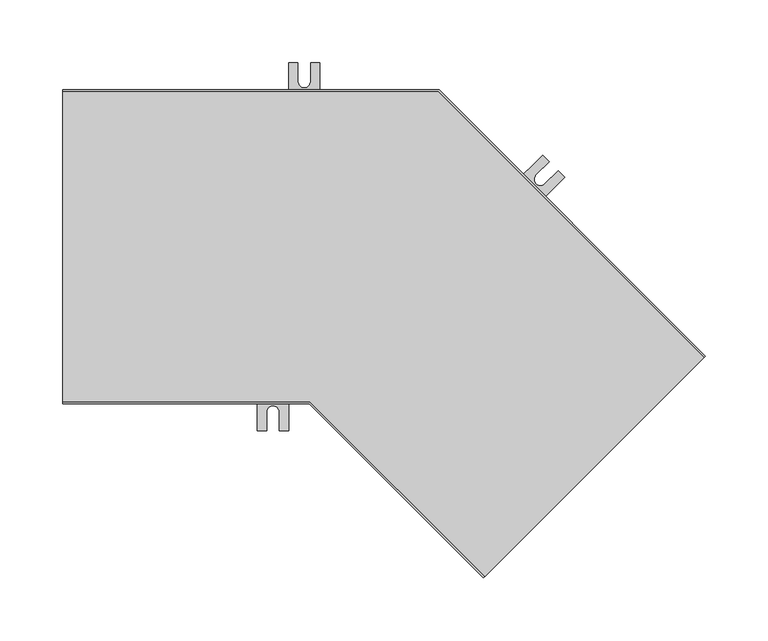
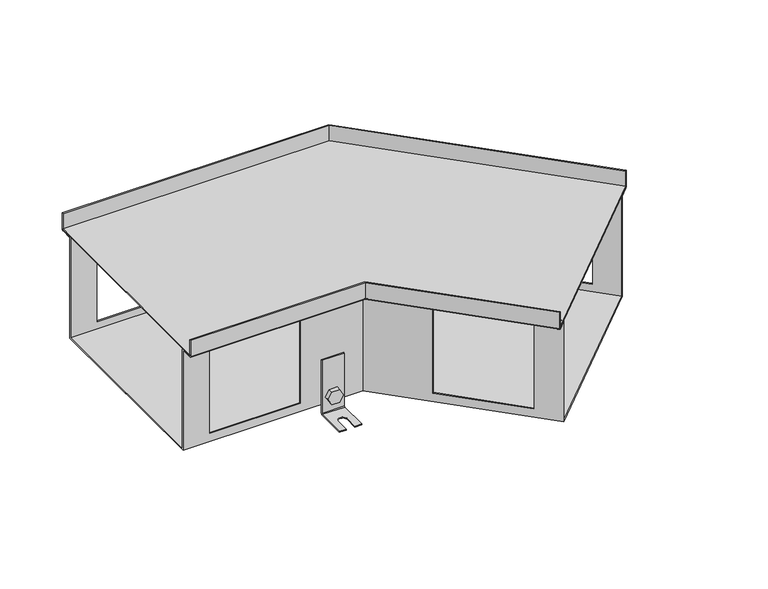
"""IFC4 building model written with IfcOpenShell, lengths in millimetres: proxy geometry, TECHNO_Угловой элемент_KVU : 250_140_135°."""

from ifc_helpers import new_model, si_unit, point, frame, frame_2d, origin, place, context, project, spatial, polyline, circle_curve, ellipse_curve, trimmed, segment, composite_curve, outline, extrude, source, transform, mapped, element, save
from ifc_brep_helpers import plane_surface, cylinder_surface, revolved_surface, advanced_brep


def mechanical_equipment_a61a3835(model_context):
    return source(origin(), model_context, "Body", "SolidModel", [
        extrude(outline(composite_curve([segment(trimmed(circle_curve(frame_2d((0.0, -7.5000001)), 7.5), [point((0.0, -15.0))], [point((0.0, 0.0))], False, "CARTESIAN"), True, "CONTINUOUS"), segment(trimmed(circle_curve(frame_2d((0.0, -7.5000001)), 7.5), [point((0.0, 0.0))], [point((0.0, -15.0))], False, "CARTESIAN"), True, "CONTINUOUS")], self_intersect=False)), frame((347.6589971, -25.3309017, -130.5), z_axis=(0.7071067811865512, 0.7071067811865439, 0.0), x_axis=(0.0, 0.0, 1.0)), (0.0, 0.0, 1.0), 1.5),
        extrude(outline(polyline([(0.0, 0.0), (8.6602541, 0.0), (12.9903811, -7.5), (8.660254, -15.0), (0.0, -15.0), (-4.330127, -7.5), (0.0, 0.0)])), frame((331.7771991, -18.3586492, -130.5), z_axis=(0.7071067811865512, 0.7071067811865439, 0.0), x_axis=(0.3535533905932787, -0.3535533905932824, -0.8660254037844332)), (0.0, 0.0, 1.0), 5.1),
        advanced_brep(
        [(350.3460028, -29.7149637, -85.5), (350.3460028, -29.7149637, -148.5), (349.7803174, -30.2806491, -149.3), (326.4457936, -53.6151729, -149.3), (326.4457936, -53.6151729, -150.5), (349.7803174, -30.2806491, -150.5), (351.194531, -28.8664356, -148.5), (351.194531, -28.8664356, -85.5), (332.6683333, -12.0372942, -85.5), (333.5168614, -11.1887661, -85.5), (333.5168614, -11.1887661, -148.5), (332.1026479, -12.6029796, -150.5), (308.7681241, -35.9375034, -150.5), (308.7681241, -35.9375034, -149.3), (332.1026479, -12.6029796, -149.3), (332.6683333, -12.0372942, -148.5), (314.0714249, -41.2408043, -149.3), (324.6780267, -30.6342025, -149.3), (331.7490945, -37.7052704, -149.3), (321.1424928, -48.3118721, -149.3), (321.1424928, -48.3118721, -150.5), (314.0714249, -41.2408043, -150.5), (331.7490945, -37.7052704, -150.5), (324.6780267, -30.6342025, -150.5)],
        [
            (0, 1),
            (1, 2, circle_curve(frame((349.7803174, -30.2806491, -148.5), z_axis=(-0.7071067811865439, 0.7071067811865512, 0.0), x_axis=(-0.7071067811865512, -0.7071067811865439, 0.0)), 0.8)),
            (2, 3),
            (3, 4),
            (4, 5),
            (5, 6, circle_curve(frame((349.7803174, -30.2806491, -148.5), z_axis=(0.7071067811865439, -0.7071067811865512, 0.0), x_axis=(-0.7071067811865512, -0.7071067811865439, 0.0)), 2.0)),
            (6, 7),
            (7, 0),
            (8, 9),
            (9, 10),
            (10, 11, circle_curve(frame((332.1026479, -12.6029796, -148.5), z_axis=(-0.7071067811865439, 0.7071067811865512, 0.0), x_axis=(-0.7071067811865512, -0.7071067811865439, 0.0)), 2.0)),
            (11, 12),
            (12, 13),
            (13, 14),
            (14, 15, circle_curve(frame((332.1026479, -12.6029796, -148.5), z_axis=(0.7071067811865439, -0.7071067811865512, 0.0), x_axis=(-0.7071067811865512, -0.7071067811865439, 0.0)), 0.8)),
            (15, 8),
            (0, 8),
            (15, 1),
            (14, 2),
            (13, 16),
            (16, 17),
            (17, 18, circle_curve(frame((328.2135606, -34.1697364, -149.3), z_axis=(0.0, 0.0, -1.0), x_axis=(0.7071067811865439, -0.7071067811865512, 0.0)), 5.0)),
            (18, 19),
            (19, 3),
            (19, 20),
            (20, 4),
            (12, 21),
            (21, 16),
            (20, 22),
            (22, 23, circle_curve(frame((328.2135606, -34.1697364, -150.5), z_axis=(0.0, 0.0, 1.0), x_axis=(0.7071067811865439, -0.7071067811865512, 0.0)), 5.0)),
            (23, 21),
            (11, 5),
            (10, 6),
            (9, 7),
            (23, 17),
            (18, 22),
        ],
        [
            plane_surface(frame((350.3460028, -29.7149637, -85.5), z_axis=(0.7071067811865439, -0.7071067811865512, 0.0), x_axis=(0.0, 0.0, -1.0))),
            plane_surface(frame((332.6683333, -12.0372942, -85.5), z_axis=(-0.7071067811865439, 0.7071067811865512, 0.0), x_axis=(0.0, 0.0, 1.0))),
            plane_surface(frame((350.3460028, -29.7149637, -85.5), z_axis=(-0.7071067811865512, -0.7071067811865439, 0.0), x_axis=(-0.7071067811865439, 0.7071067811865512, 0.0))),
            revolved_surface(polyline([(331.53696247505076, -13.168665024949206, -148.5), (349.2146319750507, -30.84633452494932, -148.5)]), (332.1026479, -12.6029796, -148.5), (-0.7071067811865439, 0.7071067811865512, 0.0)),
            plane_surface(frame((349.7803174, -30.2806491, -149.3), z_axis=(0.0, 0.0, 1.0), x_axis=(-0.7071067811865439, 0.7071067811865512, 0.0))),
            plane_surface(frame((326.4457936, -53.6151729, -149.3), z_axis=(-0.7071067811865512, -0.7071067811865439, 0.0), x_axis=(-0.7071067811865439, 0.7071067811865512, 0.0))),
            plane_surface(frame((326.4457936, -53.6151729, -150.5), z_axis=(0.0, 0.0, -1.0), x_axis=(-0.7071067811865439, 0.7071067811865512, 0.0))),
            cylinder_surface(frame((332.1026479, -12.6029796, -148.5), z_axis=(0.7071067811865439, -0.7071067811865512, 0.0), x_axis=(-0.7071067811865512, -0.7071067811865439, 0.0)), 2.0),
            plane_surface(frame((351.194531, -28.8664356, -148.5), z_axis=(0.7071067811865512, 0.7071067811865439, 0.0), x_axis=(-0.7071067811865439, 0.7071067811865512, 0.0))),
            plane_surface(frame((351.194531, -28.8664356, -85.5), z_axis=(0.0, 0.0, 1.0), x_axis=(-0.7071067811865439, 0.7071067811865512, 0.0))),
            plane_surface(frame((324.6780267, -30.6342025, -149.3), z_axis=(0.7071067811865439, -0.7071067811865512, 0.0), x_axis=(0.0, 0.0, -1.0))),
            plane_surface(frame((321.1424928, -48.3118721, -149.3), z_axis=(-0.707106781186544, 0.7071067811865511, 0.0), x_axis=(0.0, 0.0, -1.0))),
            revolved_surface(polyline([(331.7490945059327, -37.70527030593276, -149.3), (331.7490945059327, -37.70527030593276, -150.5)]), (328.2135606, -34.1697364, -150.5), (0.0, 0.0, 1.0)),
        ],
        [
            (0, [[1, 2, 3, 4, 5, 6, 7, 8]]),
            (1, [[9, 10, 11, 12, 13, 14, 15, 16]]),
            (2, [[-1, 17, -16, 18]]),
            (3, [[-2, -18, -15, 19]]),
            (4, [[-3, -19, -14, 20, 21, 22, 23, 24]]),
            (5, [[-4, -24, 25, 26]]),
            (5, [[-13, 27, 28, -20]]),
            (6, [[-5, -26, 29, 30, 31, -27, -12, 32]]),
            (7, [[-6, -32, -11, 33]]),
            (8, [[-7, -33, -10, 34]]),
            (9, [[-8, -34, -9, -17]]),
            (10, [[35, -21, -28, -31]]),
            (11, [[36, -29, -25, -23]]),
            (12, [[-35, -30, -36, -22]]),
        ],
    ),
        extrude(outline(composite_curve([segment(trimmed(circle_curve(frame_2d((0.0, -7.4999999)), 7.5), [point((0.0, -15.0))], [point((0.0, 0.0))], False, "CARTESIAN"), True, "CONTINUOUS"), segment(trimmed(circle_curve(frame_2d((0.0, -7.4999999)), 7.5), [point((0.0, 0.0))], [point((0.0, -15.0))], False, "CARTESIAN"), True, "CONTINUOUS")], self_intersect=False)), frame((360.2454978, 43.8241415, -130.5), z_axis=(0.7071067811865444, 0.7071067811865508, 0.0), x_axis=(0.0, 0.0, -1.0)), (0.0, 0.0, 1.0), 1.5),
        extrude(outline(polyline([(0.0, 0.0), (4.330127, -7.5), (0.0, -15.0), (-8.660254, -15.0), (-12.9903811, -7.5), (-8.6602541, 0.0), (0.0, 0.0)])), frame((373.5817113, 34.3063046, -130.5), z_axis=(0.7071067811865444, 0.7071067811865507, 0.0), x_axis=(0.35355339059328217, -0.35355339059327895, 0.8660254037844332)), (0.0, 0.0, 1.0), 5.1),
        advanced_brep(
        [(358.6191522, 49.2688637, -85.5), (358.6191522, 49.2688637, -148.5), (359.1848376, 49.8345492, -149.3), (382.5193614, 73.1690729, -149.3), (382.5193614, 73.1690729, -150.5), (359.1848376, 49.8345492, -150.5), (357.770624, 48.4203356, -148.5), (357.770624, 48.4203356, -85.5), (376.2968217, 31.5911942, -85.5), (375.4482936, 30.7426661, -85.5), (375.4482936, 30.7426661, -148.5), (376.8625071, 32.1568796, -150.5), (400.1970309, 55.4914034, -150.5), (400.1970309, 55.4914034, -149.3), (376.8625071, 32.1568796, -149.3), (376.2968217, 31.5911942, -148.5), (394.89373, 60.7947043, -149.3), (384.2871283, 50.1881026, -149.3), (377.2160605, 57.2591704, -149.3), (387.8226622, 67.8657721, -149.3), (387.8226622, 67.8657721, -150.5), (394.89373, 60.7947043, -150.5), (377.2160605, 57.2591704, -150.5), (384.2871283, 50.1881026, -150.5)],
        [
            (0, 1),
            (1, 2, circle_curve(frame((359.1848376, 49.8345492, -148.5), z_axis=(0.7071067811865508, -0.7071067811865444, 0.0), x_axis=(0.7071067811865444, 0.7071067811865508, 0.0)), 0.8)),
            (2, 3),
            (3, 4),
            (4, 5),
            (5, 6, circle_curve(frame((359.1848376, 49.8345492, -148.5), z_axis=(-0.7071067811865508, 0.7071067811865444, 0.0), x_axis=(0.7071067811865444, 0.7071067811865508, 0.0)), 2.0)),
            (6, 7),
            (7, 0),
            (8, 9),
            (9, 10),
            (10, 11, circle_curve(frame((376.8625071, 32.1568796, -148.5), z_axis=(0.7071067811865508, -0.7071067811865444, 0.0), x_axis=(0.7071067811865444, 0.7071067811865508, 0.0)), 2.0)),
            (11, 12),
            (12, 13),
            (13, 14),
            (14, 15, circle_curve(frame((376.8625071, 32.1568796, -148.5), z_axis=(-0.7071067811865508, 0.7071067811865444, 0.0), x_axis=(0.7071067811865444, 0.7071067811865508, 0.0)), 0.8)),
            (15, 8),
            (0, 8),
            (15, 1),
            (14, 2),
            (13, 16),
            (16, 17),
            (17, 18, circle_curve(frame((380.7515944, 53.7236365, -149.3), z_axis=(0.0, 0.0, -1.0), x_axis=(-0.7071067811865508, 0.7071067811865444, 0.0)), 5.0)),
            (18, 19),
            (19, 3),
            (19, 20),
            (20, 4),
            (12, 21),
            (21, 16),
            (20, 22),
            (22, 23, circle_curve(frame((380.7515944, 53.7236365, -150.5), z_axis=(0.0, 0.0, 1.0), x_axis=(-0.7071067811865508, 0.7071067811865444, 0.0)), 5.0)),
            (23, 21),
            (11, 5),
            (10, 6),
            (9, 7),
            (23, 17),
            (18, 22),
        ],
        [
            plane_surface(frame((358.6191522, 49.2688637, -85.5), z_axis=(-0.7071067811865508, 0.7071067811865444, 0.0), x_axis=(0.0, 0.0, -1.0))),
            plane_surface(frame((376.2968217, 31.5911942, -85.5), z_axis=(0.7071067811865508, -0.7071067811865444, 0.0), x_axis=(0.0, 0.0, 1.0))),
            plane_surface(frame((358.6191522, 49.2688637, -85.5), z_axis=(0.7071067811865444, 0.7071067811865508, 0.0), x_axis=(0.7071067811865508, -0.7071067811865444, 0.0))),
            revolved_surface(polyline([(377.4281925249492, 32.72256502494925, -148.5), (359.75052297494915, 50.40023457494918, -148.5)]), (376.8625071, 32.1568796, -148.5), (0.7071067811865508, -0.7071067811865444, 0.0)),
            plane_surface(frame((359.1848376, 49.8345492, -149.3), z_axis=(0.0, 0.0, 1.0000000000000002), x_axis=(0.7071067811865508, -0.7071067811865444, 0.0))),
            plane_surface(frame((382.5193614, 73.1690729, -149.3), z_axis=(0.7071067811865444, 0.7071067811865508, 0.0), x_axis=(0.7071067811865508, -0.7071067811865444, 0.0))),
            plane_surface(frame((382.5193614, 73.1690729, -150.5), z_axis=(0.0, 0.0, -1.0000000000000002), x_axis=(0.7071067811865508, -0.7071067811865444, 0.0))),
            cylinder_surface(frame((376.8625071, 32.1568796, -148.5), z_axis=(-0.7071067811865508, 0.7071067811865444, 0.0), x_axis=(0.7071067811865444, 0.7071067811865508, 0.0)), 2.0),
            plane_surface(frame((357.770624, 48.4203356, -148.5), z_axis=(-0.7071067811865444, -0.7071067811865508, 0.0), x_axis=(0.7071067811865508, -0.7071067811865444, 0.0))),
            plane_surface(frame((357.770624, 48.4203356, -85.5), z_axis=(0.0, 0.0, 1.0000000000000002), x_axis=(0.7071067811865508, -0.7071067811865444, 0.0))),
            plane_surface(frame((384.2871283, 50.1881026, -149.3), z_axis=(-0.7071067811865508, 0.7071067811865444, 0.0), x_axis=(0.0, 0.0, -1.0))),
            plane_surface(frame((387.8226622, 67.8657721, -149.3), z_axis=(0.7071067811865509, -0.7071067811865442, 0.0), x_axis=(0.0, 0.0, -1.0))),
            revolved_surface(polyline([(377.2160604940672, 57.25917040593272, -149.3), (377.2160604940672, 57.25917040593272, -150.5)]), (380.7515944, 53.7236365, -150.5), (0.0, 0.0, 1.0)),
        ],
        [
            (0, [[1, 2, 3, 4, 5, 6, 7, 8]]),
            (1, [[9, 10, 11, 12, 13, 14, 15, 16]]),
            (2, [[-1, 17, -16, 18]]),
            (3, [[-2, -18, -15, 19]]),
            (4, [[-3, -19, -14, 20, 21, 22, 23, 24]]),
            (5, [[-4, -24, 25, 26]]),
            (5, [[-13, 27, 28, -20]]),
            (6, [[-5, -26, 29, 30, 31, -27, -12, 32]]),
            (7, [[-6, -32, -11, 33]]),
            (8, [[-7, -33, -10, 34]]),
            (9, [[-8, -34, -9, -17]]),
            (10, [[35, -21, -28, -31]]),
            (11, [[36, -29, -25, -23]]),
            (12, [[-35, -30, -36, -22]]),
        ],
    ),
        extrude(outline(composite_curve([segment(trimmed(circle_curve(frame_2d((-130.5, 192.5)), 7.5), [point((-130.5, 185.0))], [point((-130.5, 200.0))], False, "CARTESIAN"), True, "CONTINUOUS"), segment(trimmed(circle_curve(frame_2d((-130.5, 192.5)), 7.5), [point((-130.5, 200.0))], [point((-130.5, 185.0))], False, "CARTESIAN"), True, "CONTINUOUS")], self_intersect=False)), frame((0.0, 110.2, 0.0), z_axis=(0.0, 1.0, 0.0), x_axis=(0.0, 0.0, 1.0)), (0.0, 0.0, 1.0), 1.5),
        extrude(outline(polyline([(-130.5, 183.839746), (-138.0, 188.169873), (-138.0, 196.830127), (-130.5, 201.160254), (-123.0, 196.830127), (-123.0, 188.169873), (-130.5, 183.839746)])), frame((0.0, 112.9, 0.0), z_axis=(0.0, 1.0, 0.0), x_axis=(0.0, 0.0, 1.0)), (0.0, 0.0, 1.0), 5.1),
        advanced_brep(
        [(205.0, 112.9, -85.5), (205.0, 111.7, -85.5), (205.0, 111.7, -148.5), (205.0, 113.7, -150.5), (205.0, 146.7, -150.5), (205.0, 146.7, -149.3), (205.0, 113.7, -149.3), (205.0, 112.9, -148.5), (180.0, 112.9, -85.5), (180.0, 112.9, -148.5), (180.0, 113.7, -149.3), (180.0, 146.7, -149.3), (180.0, 146.7, -150.5), (180.0, 113.7, -150.5), (180.0, 111.7, -148.5), (180.0, 111.7, -85.5), (197.5, 146.7, -149.3), (197.5, 131.7, -149.3), (187.5, 131.7, -149.3), (187.5, 146.7, -149.3), (187.5, 146.7, -150.5), (197.5, 146.7, -150.5), (187.5, 131.7, -150.5), (197.5, 131.7, -150.5)],
        [
            (0, 1),
            (1, 2),
            (2, 3, circle_curve(frame((205.0, 113.7, -148.5), z_axis=(1.0, 0.0, 0.0), x_axis=(0.0, 1.0, 0.0)), 2.0)),
            (3, 4),
            (4, 5),
            (5, 6),
            (6, 7, circle_curve(frame((205.0, 113.7, -148.5), z_axis=(-1.0, 0.0, 0.0), x_axis=(0.0, 1.0, 0.0)), 0.8)),
            (7, 0),
            (8, 9),
            (9, 10, circle_curve(frame((180.0, 113.7, -148.5), z_axis=(1.0, 0.0, 0.0), x_axis=(0.0, 1.0, 0.0)), 0.8)),
            (10, 11),
            (11, 12),
            (12, 13),
            (13, 14, circle_curve(frame((180.0, 113.7, -148.5), z_axis=(-1.0, 0.0, 0.0), x_axis=(0.0, 1.0, 0.0)), 2.0)),
            (14, 15),
            (15, 8),
            (7, 9),
            (8, 0),
            (6, 10),
            (5, 16),
            (16, 17),
            (17, 18, circle_curve(frame((192.5, 131.7, -149.3), z_axis=(0.0, 0.0, -1.0), x_axis=(1.0, 0.0, 0.0)), 5.0)),
            (18, 19),
            (19, 11),
            (19, 20),
            (20, 12),
            (4, 21),
            (21, 16),
            (3, 13),
            (20, 22),
            (22, 23, circle_curve(frame((192.5, 131.7, -150.5), z_axis=(0.0, 0.0, 1.0), x_axis=(1.0, 0.0, 0.0)), 5.0)),
            (23, 21),
            (2, 14),
            (1, 15),
            (18, 22),
            (23, 17),
        ],
        [
            plane_surface(frame((205.0, 112.9, -85.5), z_axis=(1.0, 0.0, 0.0), x_axis=(0.0, 0.0, -1.0))),
            plane_surface(frame((180.0, 112.9, -85.5), z_axis=(-1.0, 0.0, 0.0), x_axis=(0.0, 0.0, 1.0))),
            plane_surface(frame((205.0, 112.9, -85.5), z_axis=(0.0, 1.0, 0.0), x_axis=(-1.0, 0.0, 0.0))),
            revolved_surface(polyline([(180.0, 114.5, -148.5), (205.0, 114.5, -148.5)]), (180.0, 113.7, -148.5), (-1.0, 0.0, 0.0)),
            plane_surface(frame((205.0, 113.7, -149.3), z_axis=(0.0, 0.0, 1.0), x_axis=(-1.0, 0.0, 0.0))),
            plane_surface(frame((205.0, 146.7, -149.3), z_axis=(0.0, 1.0, 0.0), x_axis=(-1.0, 0.0, 0.0))),
            plane_surface(frame((205.0, 146.7, -150.5), z_axis=(0.0, 0.0, -1.0), x_axis=(-1.0, 0.0, 0.0))),
            cylinder_surface(frame((180.0, 113.7, -148.5), z_axis=(1.0, 0.0, 0.0), x_axis=(0.0, 1.0, 0.0)), 2.0),
            plane_surface(frame((205.0, 111.7, -148.5), z_axis=(0.0, -1.0, 0.0), x_axis=(-1.0, 0.0, 0.0))),
            plane_surface(frame((205.0, 111.7, -85.5), z_axis=(0.0, 0.0, 1.0), x_axis=(-1.0, 0.0, 0.0))),
            plane_surface(frame((187.5, 131.7, -149.3), z_axis=(1.0, 0.0, 0.0), x_axis=(0.0, 0.0, -1.0))),
            plane_surface(frame((197.5, 146.7, -149.3), z_axis=(-1.0, 0.0, 0.0), x_axis=(0.0, 0.0, -1.0))),
            revolved_surface(polyline([(197.5, 131.7, -149.3), (197.5, 131.7, -150.5)]), (192.5, 131.7, -150.5), (0.0, 0.0, 1.0)),
        ],
        [
            (0, [[1, 2, 3, 4, 5, 6, 7, 8]]),
            (1, [[9, 10, 11, 12, 13, 14, 15, 16]]),
            (2, [[17, -9, 18, -8]]),
            (3, [[19, -10, -17, -7]]),
            (4, [[20, 21, 22, 23, 24, -11, -19, -6]]),
            (5, [[-24, 25, 26, -12]]),
            (5, [[27, 28, -20, -5]]),
            (6, [[29, -13, -26, 30, 31, 32, -27, -4]]),
            (7, [[33, -14, -29, -3]]),
            (8, [[34, -15, -33, -2]]),
            (9, [[-18, -16, -34, -1]]),
            (10, [[-30, -25, -23, 35]]),
            (11, [[-21, -28, -32, 36]]),
            (12, [[-22, -36, -31, -35]]),
        ],
    ),
        extrude(outline(composite_curve([segment(trimmed(circle_curve(frame_2d((-130.5, 167.5)), 7.5), [point((-130.5, 160.0))], [point((-130.5, 175.0))], False, "CARTESIAN"), True, "CONTINUOUS"), segment(trimmed(circle_curve(frame_2d((-130.5, 167.5)), 7.5), [point((-130.5, 175.0))], [point((-130.5, 160.0))], False, "CARTESIAN"), True, "CONTINUOUS")], self_intersect=False)), frame((0.0, -111.7, 0.0), z_axis=(0.0, 1.0, 0.0), x_axis=(0.0, 0.0, 1.0)), (0.0, 0.0, 1.0), 1.5),
        extrude(outline(polyline([(-130.5, 158.839746), (-138.0, 163.169873), (-138.0, 171.830127), (-130.5, 176.160254), (-123.0, 171.830127), (-123.0, 163.169873), (-130.5, 158.839746)])), frame((0.0, -118.0, 0.0), z_axis=(0.0, 1.0, 0.0), x_axis=(0.0, 0.0, 1.0)), (0.0, 0.0, 1.0), 5.1),
        advanced_brep(
        [(180.0, -112.9, -85.5), (180.0, -112.9, -148.5), (180.0, -113.7, -149.3), (180.0, -146.7, -149.3), (180.0, -146.7, -150.5), (180.0, -113.7, -150.5), (180.0, -111.7, -148.5), (180.0, -111.7, -85.5), (155.0, -112.9, -85.5), (155.0, -111.7, -85.5), (155.0, -111.7, -148.5), (155.0, -113.7, -150.5), (155.0, -146.7, -150.5), (155.0, -146.7, -149.3), (155.0, -113.7, -149.3), (155.0, -112.9, -148.5), (162.5, -146.7, -149.3), (162.5, -131.7, -149.3), (172.5, -131.7, -149.3), (172.5, -146.7, -149.3), (172.5, -146.7, -150.5), (162.5, -146.7, -150.5), (172.5, -131.7, -150.5), (162.5, -131.7, -150.5)],
        [
            (0, 1),
            (1, 2, circle_curve(frame((180.0, -113.7, -148.5), z_axis=(-1.0, 0.0, 0.0), x_axis=(0.0, -1.0, 0.0)), 0.8)),
            (2, 3),
            (3, 4),
            (4, 5),
            (5, 6, circle_curve(frame((180.0, -113.7, -148.5), z_axis=(1.0, 0.0, 0.0), x_axis=(0.0, -1.0, 0.0)), 2.0)),
            (6, 7),
            (7, 0),
            (8, 9),
            (9, 10),
            (10, 11, circle_curve(frame((155.0, -113.7, -148.5), z_axis=(-1.0, 0.0, 0.0), x_axis=(0.0, -1.0, 0.0)), 2.0)),
            (11, 12),
            (12, 13),
            (13, 14),
            (14, 15, circle_curve(frame((155.0, -113.7, -148.5), z_axis=(1.0, 0.0, 0.0), x_axis=(0.0, -1.0, 0.0)), 0.8)),
            (15, 8),
            (0, 8),
            (15, 1),
            (14, 2),
            (13, 16),
            (16, 17),
            (17, 18, circle_curve(frame((167.5, -131.7, -149.3), z_axis=(0.0, 0.0, -1.0), x_axis=(1.0, 0.0, 0.0)), 5.0)),
            (18, 19),
            (19, 3),
            (19, 20),
            (20, 4),
            (12, 21),
            (21, 16),
            (20, 22),
            (22, 23, circle_curve(frame((167.5, -131.7, -150.5), z_axis=(0.0, 0.0, 1.0), x_axis=(1.0, 0.0, 0.0)), 5.0)),
            (23, 21),
            (11, 5),
            (10, 6),
            (9, 7),
            (23, 17),
            (18, 22),
        ],
        [
            plane_surface(frame((180.0, -112.9, -85.5), z_axis=(1.0, 0.0, 0.0), x_axis=(0.0, 0.0, -1.0))),
            plane_surface(frame((155.0, -112.9, -85.5), z_axis=(-1.0, 0.0, 0.0), x_axis=(0.0, 0.0, 1.0))),
            plane_surface(frame((180.0, -112.9, -85.5), z_axis=(0.0, -1.0, 0.0), x_axis=(-1.0, 0.0, 0.0))),
            revolved_surface(polyline([(155.0, -114.5, -148.5), (180.0, -114.5, -148.5)]), (155.0, -113.7, -148.5), (-1.0, 0.0, 0.0)),
            plane_surface(frame((180.0, -113.7, -149.3), z_axis=(0.0, 0.0, 1.0), x_axis=(-1.0, 0.0, 0.0))),
            plane_surface(frame((180.0, -146.7, -149.3), z_axis=(0.0, -1.0, 0.0), x_axis=(-1.0, 0.0, 0.0))),
            plane_surface(frame((180.0, -146.7, -150.5), z_axis=(0.0, 0.0, -1.0), x_axis=(-1.0, 0.0, 0.0))),
            cylinder_surface(frame((155.0, -113.7, -148.5), z_axis=(1.0, 0.0, 0.0), x_axis=(0.0, -1.0, 0.0)), 2.0),
            plane_surface(frame((180.0, -111.7, -148.5), z_axis=(0.0, 1.0, 0.0), x_axis=(-1.0, 0.0, 0.0))),
            plane_surface(frame((180.0, -111.7, -85.5), z_axis=(0.0, 0.0, 1.0), x_axis=(-1.0, 0.0, 0.0))),
            plane_surface(frame((162.5, -131.7, -149.3), z_axis=(1.0, 0.0, 0.0), x_axis=(0.0, 0.0, -1.0))),
            plane_surface(frame((172.5, -146.7, -149.3), z_axis=(-1.0, 0.0, 0.0), x_axis=(0.0, 0.0, -1.0))),
            revolved_surface(polyline([(172.5, -131.7, -149.3), (172.5, -131.7, -150.5)]), (167.5, -131.7, -150.5), (0.0, 0.0, 1.0)),
        ],
        [
            (0, [[1, 2, 3, 4, 5, 6, 7, 8]]),
            (1, [[9, 10, 11, 12, 13, 14, 15, 16]]),
            (2, [[-1, 17, -16, 18]]),
            (3, [[-2, -18, -15, 19]]),
            (4, [[-3, -19, -14, 20, 21, 22, 23, 24]]),
            (5, [[-4, -24, 25, 26]]),
            (5, [[-13, 27, 28, -20]]),
            (6, [[-5, -26, 29, 30, 31, -27, -12, 32]]),
            (7, [[-6, -32, -11, 33]]),
            (8, [[-7, -33, -10, 34]]),
            (9, [[-8, -34, -9, -17]]),
            (10, [[35, -21, -28, -31]]),
            (11, [[36, -29, -25, -23]]),
            (12, [[-35, -30, -36, -22]]),
        ],
    ),
        extrude(outline(polyline([(511.2835062, -87.9805625), (336.2038672, -263.0602015), (196.9436657, -123.8), (0.0, -123.8), (0.0, 123.8), (299.5029437, 123.8), (511.2835062, -87.9805625)])), frame((0.0, 0.0, -19.3), z_axis=(0.0, 0.0, 1.0), x_axis=(1.0, 0.0, 0.0)), (0.0, 0.0, 1.0), 1.2),
        advanced_brep(
        [(335.3553391, -263.9087297, -19.3), (336.2038672, -263.0602015, -20.5), (345.8205194, -253.4435493, -20.5), (345.8205194, -253.4435493, -140.0), (501.666854, -97.5972147, -140.0), (501.666854, -97.5972147, -20.5), (511.2835062, -87.9805625, -20.5), (512.1320344, -87.1320344, -19.3), (512.1320344, -87.1320344, 0.0), (511.2835062, -87.9805625, 0.0), (511.2835062, -87.9805625, -19.3), (501.666854, -97.5972147, -19.3), (500.8183259, -98.4457429, -20.5), (500.8183259, -98.4457429, -138.8), (346.6690476, -252.5950212, -138.8), (346.6690476, -252.5950212, -20.5), (345.8205194, -253.4435493, -19.3), (336.2038672, -263.0602015, -19.3), (336.2038672, -263.0602015, 0.0), (335.3553391, -263.9087297, 0.0), (0.0, -125.0, -19.3), (0.0, -125.0, 0.0), (0.0, -123.8, 0.0), (0.0, -123.8, -19.3), (0.0, -110.2, -19.3), (0.0, -109.0, -20.5), (0.0, -109.0, -138.8), (0.0, 109.0, -138.8), (0.0, 109.0, -20.5), (0.0, 110.2, -19.3), (0.0, 123.8, -19.3), (0.0, 123.8, 0.0), (0.0, 125.0, 0.0), (0.0, 125.0, -19.3), (0.0, 123.8, -20.5), (0.0, 110.2, -20.5), (0.0, 110.2, -140.0), (0.0, -110.2, -140.0), (0.0, -110.2, -20.5), (0.0, -123.8, -20.5), (196.9436657, -123.8, -20.5), (196.4466094, -125.0, -19.3), (196.9436657, -123.8, 0.0), (196.9436657, -123.8, -19.3), (202.5769701, -110.2, -140.0), (202.5769701, -110.2, -20.5), (30.0, -110.2, -30.5), (132.0, -110.2, -30.5), (132.0, -110.2, -130.0), (30.0, -110.2, -130.0), (203.0740264, -109.0, -20.5), (203.0740264, -109.0, -138.8), (132.0, -109.0, -30.5), (30.0, -109.0, -30.5), (30.0, -109.0, -130.0), (132.0, -109.0, -130.0), (202.5769701, -110.2, -19.3), (252.4824243, -160.1054542, -30.5), (324.607316, -232.2303459, -30.5), (324.607316, -232.2303459, -130.0), (252.4824243, -160.1054542, -130.0), (293.8696393, 110.2, -140.0), (293.372583, 109.0, -138.8), (325.4558441, -231.3818177, -30.5), (253.3309524, -159.256926, -30.5), (253.3309524, -159.256926, -130.0), (325.4558441, -231.3818177, -130.0), (196.4466094, -125.0, 0.0), (293.8696393, 110.2, -20.5), (480.4536506, -76.3840113, -30.5), (408.3287589, -4.2591196, -30.5), (408.3287589, -4.2591196, -130.0), (480.4536506, -76.3840113, -130.0), (299.5029437, 123.8, -20.5), (300.0, 125.0, -19.3), (300.0, 125.0, 0.0), (299.5029437, 123.8, 0.0), (299.5029437, 123.8, -19.3), (293.8696393, 110.2, -19.3), (293.372583, 109.0, -20.5), (407.4802307, -5.1076477, -30.5), (479.6051224, -77.2325394, -30.5), (479.6051224, -77.2325394, -130.0), (407.4802307, -5.1076477, -130.0), (132.0, 110.2, -30.5), (30.0, 110.2, -30.5), (30.0, 110.2, -130.0), (132.0, 110.2, -130.0), (30.0, 109.0, -30.5), (132.0, 109.0, -30.5), (132.0, 109.0, -130.0), (30.0, 109.0, -130.0)],
        [
            (0, 1, circle_curve(frame((336.2038672, -263.0602015, -19.3), z_axis=(0.707106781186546, -0.707106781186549, 0.0), x_axis=(-0.707106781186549, -0.707106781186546, 0.0)), 1.2)),
            (1, 2),
            (2, 3),
            (3, 4),
            (4, 5),
            (5, 6),
            (6, 7, circle_curve(frame((511.2835062, -87.9805625, -19.3), z_axis=(0.707106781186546, -0.707106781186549, 0.0), x_axis=(-0.707106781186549, -0.707106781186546, 0.0)), 1.2)),
            (7, 8),
            (8, 9),
            (9, 10),
            (10, 11),
            (11, 12, circle_curve(frame((501.666854, -97.5972147, -20.5), z_axis=(0.707106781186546, -0.707106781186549, 0.0), x_axis=(-0.707106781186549, -0.707106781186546, 0.0)), 1.2)),
            (12, 13),
            (13, 14),
            (14, 15),
            (15, 16, circle_curve(frame((345.8205194, -253.4435493, -20.5), z_axis=(0.707106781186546, -0.707106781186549, 0.0), x_axis=(-0.707106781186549, -0.707106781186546, 0.0)), 1.2)),
            (16, 17),
            (17, 18),
            (18, 19),
            (19, 0),
            (20, 21),
            (21, 22),
            (22, 23),
            (23, 24),
            (24, 25, circle_curve(frame((0.0, -110.2, -20.5), z_axis=(-1.0, 0.0, 0.0), x_axis=(0.0, -1.0, 0.0)), 1.2)),
            (25, 26),
            (26, 27),
            (27, 28),
            (28, 29, circle_curve(frame((0.0, 110.2, -20.5), z_axis=(-1.0, 0.0, 0.0), x_axis=(0.0, -1.0, 0.0)), 1.2)),
            (29, 30),
            (30, 31),
            (31, 32),
            (32, 33),
            (33, 34, circle_curve(frame((0.0, 123.8, -19.3), z_axis=(-1.0, 0.0, 0.0), x_axis=(0.0, -1.0, 0.0)), 1.2)),
            (34, 35),
            (35, 36),
            (36, 37),
            (37, 38),
            (38, 39),
            (39, 20, circle_curve(frame((0.0, -123.8, -19.3), z_axis=(-1.0, 0.0, 0.0), x_axis=(0.0, -1.0, 0.0)), 1.2)),
            (39, 40),
            (40, 41, ellipse_curve(frame((196.9436657, -123.8, -19.3), z_axis=(-0.9238795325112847, 0.3826834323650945, 0.0), x_axis=(0.3826834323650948, 0.9238795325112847, 0.0)), 1.2988706, 1.2)),
            (41, 20),
            (22, 42),
            (42, 43),
            (43, 23),
            (37, 44),
            (44, 45),
            (45, 38),
            (46, 47),
            (47, 48),
            (48, 49),
            (49, 46),
            (25, 50),
            (50, 51),
            (51, 26),
            (52, 53),
            (53, 54),
            (54, 55),
            (55, 52),
            (24, 56),
            (56, 50, ellipse_curve(frame((202.5769701, -110.2, -20.5), z_axis=(-0.9238795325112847, 0.3826834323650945, 0.0), x_axis=(0.3826834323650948, 0.9238795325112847, 0.0)), 1.2988706, 1.2)),
            (0, 41),
            (40, 1),
            (45, 2),
            (44, 3),
            (57, 58),
            (58, 59),
            (59, 60),
            (60, 57),
            (36, 61),
            (61, 4),
            (13, 62),
            (62, 27),
            (51, 14),
            (50, 15),
            (63, 64),
            (64, 65),
            (65, 66),
            (66, 63),
            (56, 16),
            (43, 17),
            (42, 18),
            (21, 67),
            (67, 19),
            (61, 68),
            (68, 5),
            (69, 70),
            (70, 71),
            (71, 72),
            (72, 69),
            (68, 35),
            (34, 73),
            (73, 6),
            (73, 74, ellipse_curve(frame((299.5029437, 123.8, -19.3), z_axis=(0.9238795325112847, -0.3826834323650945, 0.0), x_axis=(-0.38268343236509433, -0.9238795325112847, 0.0)), 1.2988706, 1.2)),
            (74, 7),
            (74, 75),
            (75, 8),
            (75, 32),
            (31, 76),
            (76, 9),
            (76, 77),
            (77, 10),
            (77, 30),
            (29, 78),
            (78, 11),
            (78, 79, ellipse_curve(frame((293.8696393, 110.2, -20.5), z_axis=(0.9238795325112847, -0.3826834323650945, 0.0), x_axis=(-0.38268343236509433, -0.9238795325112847, 0.0)), 1.2988706, 1.2)),
            (79, 12),
            (79, 62),
            (80, 81),
            (81, 82),
            (82, 83),
            (83, 80),
            (84, 85),
            (85, 86),
            (86, 87),
            (87, 84),
            (33, 74),
            (28, 79),
            (88, 89),
            (89, 90),
            (90, 91),
            (91, 88),
            (41, 67),
            (46, 53),
            (52, 47),
            (88, 85),
            (84, 89),
            (49, 54),
            (91, 86),
            (48, 55),
            (90, 87),
            (57, 64),
            (63, 58),
            (80, 70),
            (69, 81),
            (66, 59),
            (72, 82),
            (65, 60),
            (71, 83),
        ],
        [
            plane_surface(frame((423.7436867, -175.520382, 0.0), z_axis=(0.707106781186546, -0.707106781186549, 0.0), x_axis=(0.0, 0.0, 1.0))),
            plane_surface(frame((0.0, 0.0, 0.0), z_axis=(-1.0, 0.0, 0.0), x_axis=(0.0, 0.0, 1.0))),
            cylinder_surface(frame((248.2233047, -123.8, -19.3), z_axis=(1.0, 0.0, 0.0), x_axis=(0.0, -1.0, 0.0)), 1.2),
            plane_surface(frame((196.9436657, -123.8, -19.3), z_axis=(0.0, 1.0, 0.0), x_axis=(-1.0, 0.0, 0.0))),
            plane_surface(frame((202.5769701, -110.2, -20.5), z_axis=(0.0, -1.0, 0.0), x_axis=(-1.0, 0.0, 0.0))),
            plane_surface(frame((203.0740264, -109.0, -138.8), z_axis=(0.0, 1.0, 0.0), x_axis=(-1.0, 0.0, 0.0))),
            cylinder_surface(frame((248.2233047, -110.2, -20.5), z_axis=(1.0, 0.0, 0.0), x_axis=(0.0, -1.0, 0.0)), 1.2),
            cylinder_surface(frame((336.2038672, -263.0602015, -19.3), z_axis=(0.707106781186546, -0.707106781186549, 0.0), x_axis=(-0.707106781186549, -0.707106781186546, 0.0)), 1.2),
            plane_surface(frame((336.2038672, -263.0602015, -20.5), z_axis=(0.0, 0.0, -1.0), x_axis=(-0.707106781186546, 0.7071067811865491, 0.0))),
            plane_surface(frame((345.8205194, -253.4435493, -20.5), z_axis=(-0.7071067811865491, -0.7071067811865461, 0.0), x_axis=(-0.7071067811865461, 0.7071067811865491, 0.0))),
            plane_surface(frame((345.8205194, -253.4435493, -140.0), z_axis=(0.0, 0.0, -1.0), x_axis=(-0.7071067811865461, 0.7071067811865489, 0.0))),
            plane_surface(frame((500.8183259, -98.4457429, -138.8), z_axis=(0.0, 0.0, 1.0), x_axis=(-0.707106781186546, 0.7071067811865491, 0.0))),
            plane_surface(frame((346.6690476, -252.5950212, -138.8), z_axis=(0.707106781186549, 0.7071067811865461, 0.0), x_axis=(-0.7071067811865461, 0.707106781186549, 0.0))),
            cylinder_surface(frame((345.8205194, -253.4435493, -20.5), z_axis=(0.707106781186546, -0.707106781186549, 0.0), x_axis=(-0.707106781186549, -0.707106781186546, 0.0)), 1.2),
            plane_surface(frame((345.8205194, -253.4435493, -19.3), z_axis=(0.0, 0.0, 1.0000000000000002), x_axis=(-0.7071067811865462, 0.7071067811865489, 0.0))),
            plane_surface(frame((336.2038672, -263.0602015, -19.3), z_axis=(0.707106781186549, 0.7071067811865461, 0.0), x_axis=(-0.7071067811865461, 0.707106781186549, 0.0))),
            plane_surface(frame((336.2038672, -263.0602015, 0.0), z_axis=(0.0, 0.0, 1.0), x_axis=(-0.7071067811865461, 0.707106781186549, 0.0))),
            plane_surface(frame((501.666854, -97.5972147, -140.0), z_axis=(0.7071067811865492, 0.7071067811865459, 0.0), x_axis=(-0.7071067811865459, 0.7071067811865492, 0.0))),
            plane_surface(frame((501.666854, -97.5972147, -20.5), z_axis=(0.0, 0.0, -1.0000000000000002), x_axis=(-0.7071067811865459, 0.7071067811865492, 0.0))),
            cylinder_surface(frame((511.2835062, -87.9805625, -19.3), z_axis=(0.707106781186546, -0.707106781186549, 0.0), x_axis=(-0.707106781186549, -0.707106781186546, 0.0)), 1.2),
            plane_surface(frame((512.1320344, -87.1320344, -19.3), z_axis=(0.707106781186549, 0.707106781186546, 0.0), x_axis=(-0.707106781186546, 0.707106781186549, 0.0))),
            plane_surface(frame((512.1320344, -87.1320344, 0.0), z_axis=(0.0, 0.0, 1.0), x_axis=(-0.707106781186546, 0.707106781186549, 0.0))),
            plane_surface(frame((511.2835062, -87.9805625, 0.0), z_axis=(-0.707106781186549, -0.707106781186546, 0.0), x_axis=(-0.707106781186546, 0.707106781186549, 0.0))),
            plane_surface(frame((511.2835062, -87.9805625, -19.3), z_axis=(0.0, 0.0, 1.0), x_axis=(-0.707106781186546, 0.707106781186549, 0.0))),
            cylinder_surface(frame((501.666854, -97.5972147, -20.5), z_axis=(0.707106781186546, -0.707106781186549, 0.0), x_axis=(-0.707106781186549, -0.707106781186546, 0.0)), 1.2),
            plane_surface(frame((500.8183259, -98.4457429, -20.5), z_axis=(-0.7071067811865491, -0.707106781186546, 0.0), x_axis=(-0.707106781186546, 0.7071067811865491, 0.0))),
            plane_surface(frame((293.8696393, 110.2, -140.0), z_axis=(0.0, 1.0, 0.0), x_axis=(-1.0, 0.0, 0.0))),
            cylinder_surface(frame((248.2233047, 123.8, -19.3), z_axis=(1.0, 0.0, 0.0), x_axis=(0.0, -1.0, 0.0)), 1.2),
            plane_surface(frame((300.0, 125.0, -19.3), z_axis=(0.0, 1.0, 0.0), x_axis=(-1.0, 0.0, 0.0))),
            plane_surface(frame((299.5029437, 123.8, 0.0), z_axis=(0.0, -1.0, 0.0), x_axis=(-1.0, 0.0, 0.0))),
            cylinder_surface(frame((248.2233047, 110.2, -20.5), z_axis=(1.0, 0.0, 0.0), x_axis=(0.0, -1.0, 0.0)), 1.2),
            plane_surface(frame((293.372583, 109.0, -20.5), z_axis=(0.0, -1.0, 0.0), x_axis=(-1.0, 0.0, 0.0))),
            plane_surface(frame((196.4466094, -125.0, 0.0), z_axis=(0.0, -1.0, 0.0), x_axis=(-1.0, 0.0, 0.0))),
            plane_surface(frame((335.3553391, -263.9087297, 0.0), z_axis=(-0.707106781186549, -0.7071067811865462, 0.0), x_axis=(-0.7071067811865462, 0.707106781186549, 0.0))),
            plane_surface(frame((30.0, 125.0, -30.5), z_axis=(0.0, 0.0, -1.0), x_axis=(0.0, -1.0, 0.0))),
            plane_surface(frame((30.0, 125.0, -130.0), z_axis=(1.0, 0.0, 0.0), x_axis=(0.0, -1.0, 0.0))),
            plane_surface(frame((132.0, 125.0, -130.0), z_axis=(0.0, 0.0, 1.0), x_axis=(0.0, -1.0, 0.0))),
            plane_surface(frame((132.0, 125.0, -30.5), z_axis=(-1.0, 0.0, 0.0), x_axis=(0.0, -1.0, 0.0))),
            plane_surface(frame((418.7939392, 6.2060608, -30.5), z_axis=(0.0, 0.0, -1.0000000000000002), x_axis=(-0.7071067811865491, -0.7071067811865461, 0.0))),
            plane_surface(frame((490.9188309, -65.9188309, -30.5), z_axis=(-0.7071067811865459, 0.7071067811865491, 0.0), x_axis=(-0.7071067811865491, -0.7071067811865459, 0.0))),
            plane_surface(frame((490.9188309, -65.9188309, -130.0), z_axis=(0.0, 0.0, 1.0), x_axis=(-0.7071067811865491, -0.7071067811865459, 0.0))),
            plane_surface(frame((418.7939392, 6.2060608, -130.0), z_axis=(0.7071067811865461, -0.7071067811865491, 0.0), x_axis=(-0.7071067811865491, -0.7071067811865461, 0.0))),
        ],
        [
            (0, [[1, 2, 3, 4, 5, 6, 7, 8, 9, 10, 11, 12, 13, 14, 15, 16, 17, 18, 19, 20]]),
            (1, [[21, 22, 23, 24, 25, 26, 27, 28, 29, 30, 31, 32, 33, 34, 35, 36, 37, 38, 39, 40]]),
            (2, [[-40, 41, 42, 43]]),
            (3, [[-23, 44, 45, 46]]),
            (4, [[-38, 47, 48, 49], [50, 51, 52, 53]]),
            (5, [[-26, 54, 55, 56], [57, 58, 59, 60]]),
            (6, [[-25, 61, 62, -54]]),
            (7, [[-1, 63, -42, 64]]),
            (8, [[-2, -64, -41, -39, -49, 65]]),
            (9, [[-3, -65, -48, 66], [67, 68, 69, 70]]),
            (10, [[-4, -66, -47, -37, 71, 72]]),
            (11, [[-14, 73, 74, -27, -56, 75]]),
            (12, [[-15, -75, -55, 76], [77, 78, 79, 80]]),
            (13, [[-16, -76, -62, 81]]),
            (14, [[-17, -81, -61, -24, -46, 82]]),
            (15, [[-18, -82, -45, 83]]),
            (16, [[-19, -83, -44, -22, 84, 85]]),
            (17, [[-5, -72, 86, 87], [88, 89, 90, 91]]),
            (18, [[-6, -87, 92, -35, 93, 94]]),
            (19, [[-7, -94, 95, 96]]),
            (20, [[-8, -96, 97, 98]]),
            (21, [[-9, -98, 99, -32, 100, 101]]),
            (22, [[-10, -101, 102, 103]]),
            (23, [[-11, -103, 104, -30, 105, 106]]),
            (24, [[-12, -106, 107, 108]]),
            (25, [[-13, -108, 109, -73], [110, 111, 112, 113]]),
            (26, [[-36, -92, -86, -71], [114, 115, 116, 117]]),
            (27, [[-34, 118, -95, -93]]),
            (28, [[-33, -99, -97, -118]]),
            (29, [[-31, -104, -102, -100]]),
            (30, [[-29, 119, -107, -105]]),
            (31, [[-28, -74, -109, -119], [120, 121, 122, 123]]),
            (32, [[-21, -43, 124, -84]]),
            (33, [[-20, -85, -124, -63]]),
            (34, [[125, -57, 126, -50]]),
            (34, [[127, -114, 128, -120]]),
            (35, [[-125, -53, 129, -58]]),
            (35, [[-127, -123, 130, -115]]),
            (36, [[-129, -52, 131, -59]]),
            (36, [[-130, -122, 132, -116]]),
            (37, [[-131, -51, -126, -60]]),
            (37, [[-132, -121, -128, -117]]),
            (38, [[133, -77, 134, -67]]),
            (38, [[135, -88, 136, -110]]),
            (39, [[-134, -80, 137, -68]]),
            (39, [[-136, -91, 138, -111]]),
            (40, [[-137, -79, 139, -69]]),
            (40, [[-138, -90, 140, -112]]),
            (41, [[-133, -70, -139, -78]]),
            (41, [[-135, -113, -140, -89]]),
        ],
    ),
    ])


if __name__ == "__main__":
    model = new_model("IFC4")
    model_context = context("Model", 3, world=origin())
    ifc_project = project(units=[si_unit("LENGTHUNIT", "METRE", prefix="MILLI")], contexts=[model_context])
    site = spatial("IfcSite", under=ifc_project)
    building = spatial("IfcBuilding", under=site)
    placement = place(None, origin())
    mechanical_equipment_shape = mechanical_equipment_a61a3835(model_context)
    element("IfcBuildingElementProxy", 1, Name="TECHNO_Угловой элемент_KVU : 250_140_135°", ObjectType="TECHNO_Угловой элемент_KVU : 250_140_135°", at=placement, inside=building, context=model_context, shape_type="MappedRepresentation", body=[
        mapped(mechanical_equipment_shape, transform((0.0, 0.0, 0.0), x_axis=(1.0, 0.0, 0.0), y_axis=(0.0, 1.0, 0.0), z_axis=(0.0, 0.0, 1.0))),
    ])
    save(model, "model.ifc")
